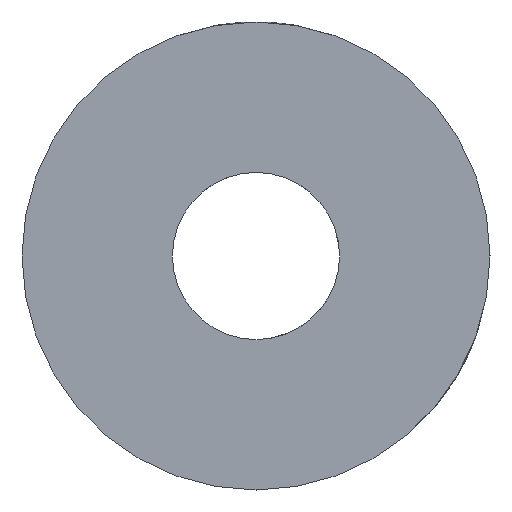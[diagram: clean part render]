
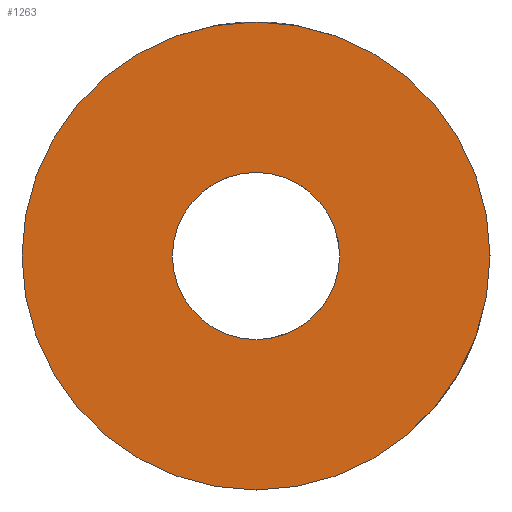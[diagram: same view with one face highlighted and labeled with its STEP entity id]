
A CAD part, left-side view. The second image highlights one B-rep face of the part: STEP entity #1263.
In plain terms, the highlighted planar face has unit normal (-1, 0, 0).
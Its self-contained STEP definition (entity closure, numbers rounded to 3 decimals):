
#1263=ADVANCED_FACE('',(#2280,#2282),#2284,.F.);
#2280=FACE_BOUND('',#2281,.T.);
#2281=EDGE_LOOP('',(#3122));
#2282=FACE_BOUND('',#2283,.T.);
#2283=EDGE_LOOP('',(#3123));
#2284=PLANE('',#2285);
#2285=AXIS2_PLACEMENT_3D('',#2286,#2287,#2288);
#2286=CARTESIAN_POINT('',(0.,0.,0.));
#2287=DIRECTION('',(1.,0.,0.));
#2288=DIRECTION('',(0.,1.,0.));
#3122=ORIENTED_EDGE('',*,*,#3530,.T.);
#3123=ORIENTED_EDGE('',*,*,#3534,.T.);
#3530=EDGE_CURVE('',#4193,#4193,#4194,.F.);
#3534=EDGE_CURVE('',#4201,#4201,#4202,.F.);
#4193=VERTEX_POINT('',#5971);
#4194=CIRCLE('',#5972,7.);
#4201=VERTEX_POINT('',#6114);
#4202=CIRCLE('',#6115,2.5);
#5971=CARTESIAN_POINT('',(0.,0.,7.));
#5972=AXIS2_PLACEMENT_3D('',#5973,#5974,#5975);
#5973=CARTESIAN_POINT('',(0.,0.,0.));
#5974=DIRECTION('',(1.,0.,0.));
#5975=DIRECTION('',(0.,0.,1.));
#6114=CARTESIAN_POINT('',(0.,-2.5,0.));
#6115=AXIS2_PLACEMENT_3D('',#6116,#6117,#6118);
#6116=CARTESIAN_POINT('',(0.,0.,0.));
#6117=DIRECTION('',(-1.,0.,0.));
#6118=DIRECTION('',(0.,-1.,0.));
